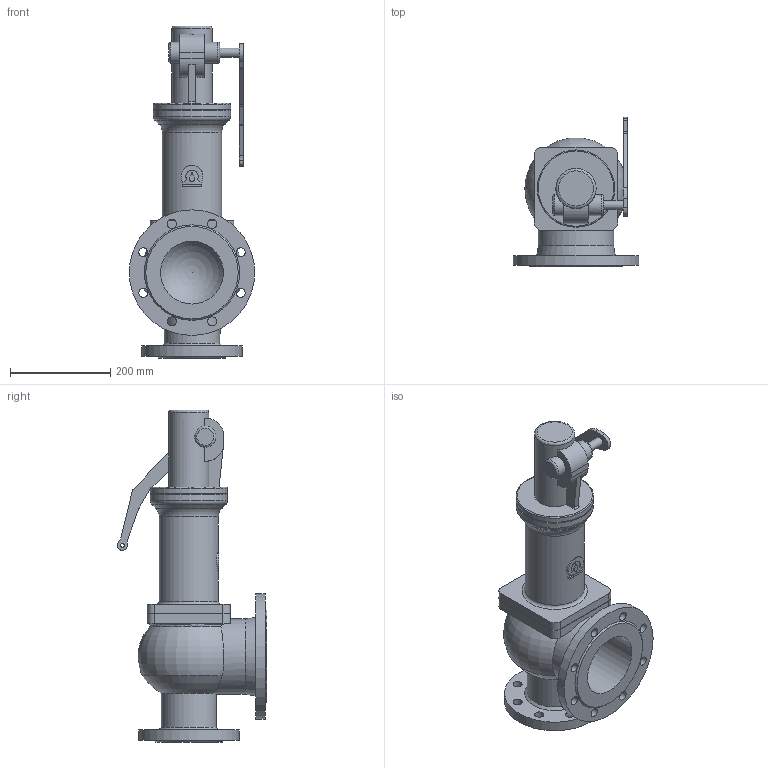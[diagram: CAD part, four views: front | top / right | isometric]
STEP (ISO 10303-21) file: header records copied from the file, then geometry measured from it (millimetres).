
FILE_DESCRIPTION(('STEP AP203'), '1');
FILE_NAME('Êëàïàí ïðåäîõðàíèòåëüíûé ïîëíîïîäüåìíûé SV2F DN80x125', '', ('UNSPECIFIED'), ('UNSPECIFIED'), 'ASCON STEP Converter 1.6', 'ASCON Math Kernel', '');
FILE_SCHEMA(('CONFIG_CONTROL_DESIGN'));
Length unit declared in the file: millimetre
Bounding box: 250 x 297.37 x 661 mm (x, y, z)
Volume: 8651921.7 mm3; surface area: 649559.2 mm2
Topology: 1 solids, 1 shells, 145 faces, 391 edges, 260 vertices
Faces by surface type: plane 67, cylinder 60, torus 9, cone 7, revolution 1, sphere 1
Full cylindrical faces by diameter (mm): 8 x1, 18 x17, 42 x2, 80 x2, 110 x1, 118 x1, 125 x1, 142.602 x1, 150 x1, 154 x2, 166 x1, 200 x1, 250 x1
Entity records: 6795 total; most frequent: CARTESIAN_POINT 1984, DIRECTION 773, ORIENTED_EDGE 680, EDGE_CURVE 340, AXIS2_PLACEMENT_3D 320, VERTEX_POINT 259, EDGE_LOOP 241, FACE_BOUND 183
